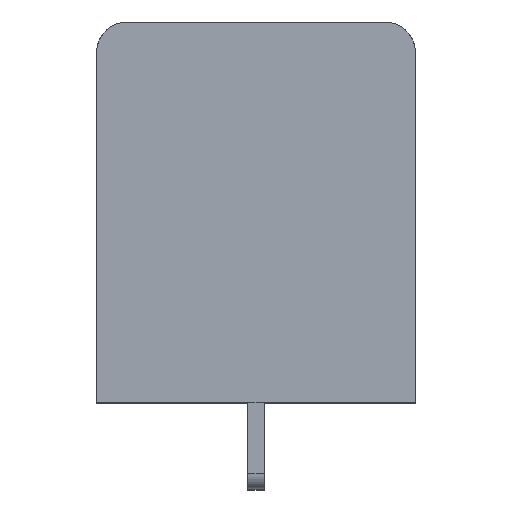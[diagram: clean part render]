
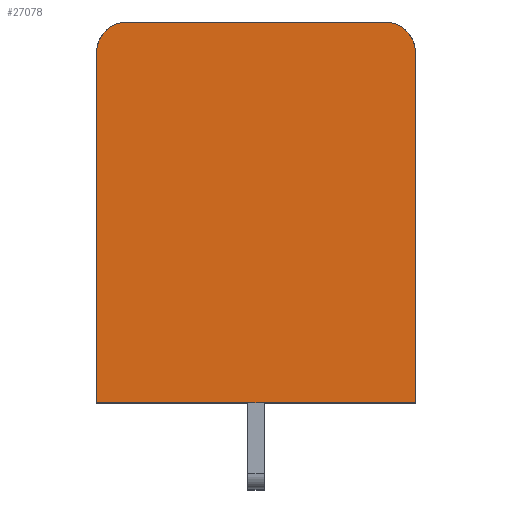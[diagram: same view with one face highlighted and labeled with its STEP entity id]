
A CAD part, top view. The second image highlights one B-rep face of the part: STEP entity #27078.
In plain terms, the highlighted planar face has unit normal (0, 0, 1).
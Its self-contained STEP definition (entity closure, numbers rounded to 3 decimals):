
#1=CARTESIAN_POINT('',(1.5,17.,0.));
#2=DIRECTION('',(0.,0.,1.));
#3=DIRECTION('',(0.,1.,0.));
#4=AXIS2_PLACEMENT_3D('',#1,#2,#3);
#6=CARTESIAN_POINT('',(14.,17.,0.));
#7=DIRECTION('',(0.,0.,1.));
#8=DIRECTION('',(1.,0.,0.));
#9=AXIS2_PLACEMENT_3D('',#6,#7,#8);
#19=DIRECTION('',(0.,1.,0.));
#20=VECTOR('',#19,17.);
#21=CARTESIAN_POINT('',(0.,0.,0.));
#22=LINE('',#21,#20);
#27=DIRECTION('',(-1.,0.,0.));
#28=VECTOR('',#27,15.5);
#29=CARTESIAN_POINT('',(15.5,0.,0.));
#30=LINE('',#29,#28);
#39=DIRECTION('',(0.,-1.,0.));
#40=VECTOR('',#39,17.);
#41=CARTESIAN_POINT('',(15.5,17.,0.));
#42=LINE('',#41,#40);
#67=DIRECTION('',(1.,0.,0.));
#68=VECTOR('',#67,12.5);
#69=CARTESIAN_POINT('',(1.5,18.5,0.));
#70=LINE('',#69,#68);
#23543=CARTESIAN_POINT('',(1.5,18.5,0.));
#23544=CARTESIAN_POINT('',(0.,17.,0.));
#23545=VERTEX_POINT('',#23543);
#23546=VERTEX_POINT('',#23544);
#23547=CARTESIAN_POINT('',(14.,18.5,0.));
#23548=VERTEX_POINT('',#23547);
#23549=CARTESIAN_POINT('',(15.5,17.,0.));
#23550=VERTEX_POINT('',#23549);
#23551=CARTESIAN_POINT('',(15.5,0.,0.));
#23552=VERTEX_POINT('',#23551);
#23553=CARTESIAN_POINT('',(0.,0.,0.));
#23554=VERTEX_POINT('',#23553);
#27059=CARTESIAN_POINT('',(7.75,9.25,0.));
#27060=DIRECTION('',(0.,0.,1.));
#27061=DIRECTION('',(1.,0.,0.));
#27062=AXIS2_PLACEMENT_3D('',#27059,#27060,#27061);
#27063=PLANE('',#27062);
#27065=ORIENTED_EDGE('',*,*,#27064,.T.);
#27067=ORIENTED_EDGE('',*,*,#27066,.F.);
#27069=ORIENTED_EDGE('',*,*,#27068,.T.);
#27071=ORIENTED_EDGE('',*,*,#27070,.F.);
#27073=ORIENTED_EDGE('',*,*,#27072,.T.);
#27075=ORIENTED_EDGE('',*,*,#27074,.T.);
#27076=EDGE_LOOP('',(#27065,#27067,#27069,#27071,#27073,#27075));
#27077=FACE_OUTER_BOUND('',#27076,.F.);
#27078=ADVANCED_FACE('',(#27077),#27063,.T.);
#5=CIRCLE('',#4,1.5);
#10=CIRCLE('',#9,1.5);
#27064=EDGE_CURVE('',#23554,#23546,#22,.T.);
#27066=EDGE_CURVE('',#23545,#23546,#5,.T.);
#27068=EDGE_CURVE('',#23545,#23548,#70,.T.);
#27070=EDGE_CURVE('',#23550,#23548,#10,.T.);
#27072=EDGE_CURVE('',#23550,#23552,#42,.T.);
#27074=EDGE_CURVE('',#23552,#23554,#30,.T.);
